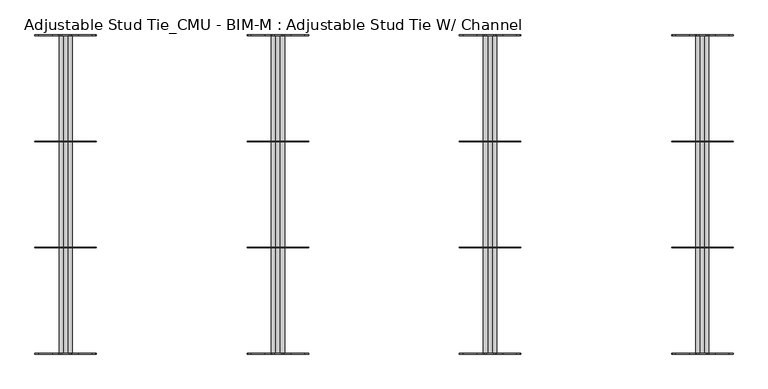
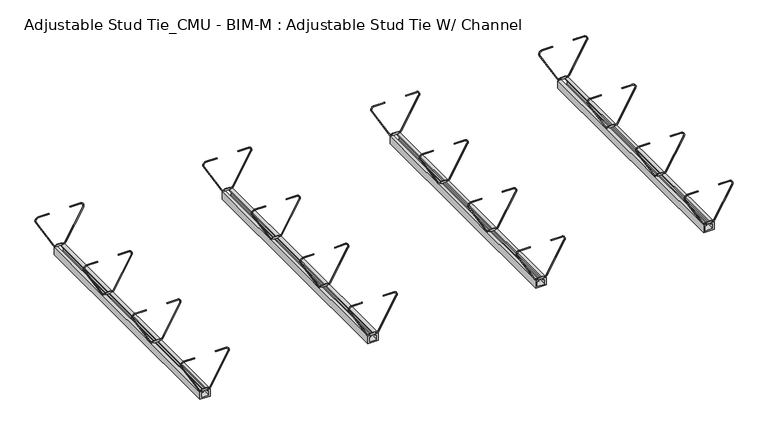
"""IFC4 building model written with IfcOpenShell, lengths in millimetres: proxy geometry, Adjustable Stud Tie_CMU - BIM-M : Adjustable Stud Tie W/ Channel."""

from ifc_helpers import new_model, si_unit, point, frame, frame_2d, origin, place, context, project, spatial, polyline, circle_curve, trimmed, segment, composite_curve, outline, extrude, source, transform, mapped, element, save


def adjustable_stud_tie_cmu_bim_m_adjustable_stud_tie_w_channel_f2c54c00(model_context):
    return source(origin(), model_context, "Body", "SweptSolid", [
        extrude(outline(composite_curve([segment(polyline([(-115.6954737, 4459.7080064), (-115.6954737, 4464.05), (-117.475, 4464.05), (-117.475, 4476.75), (-115.6954737, 4476.75), (-115.6954737, 4481.0919936)]), True, "CONTINUOUS"), segment(trimmed(circle_curve(frame_2d((-111.2621335, 4480.9975194)), 4.4343467), [point((-115.6954737, 4481.0919936))], [point((-113.4793069, 4484.8377763))], False, "CARTESIAN"), True, "CONTINUOUS"), segment(polyline([(-113.4793069, 4484.8377763), (-38.3089403, 4528.2374077)]), True, "CONTINUOUS"), segment(trimmed(circle_curve(frame_2d((-34.2420568, 4521.1933588)), 8.133767), [point((-38.3089403, 4528.2374077))], [point((-26.1197927, 4521.6257847))], False, "CARTESIAN"), True, "CONTINUOUS"), segment(polyline([(-26.1197927, 4521.6257847), (-26.1197927, 4495.8), (-27.7072927, 4495.8), (-27.7072927, 4521.5812638)]), True, "CONTINUOUS"), segment(trimmed(circle_curve(frame_2d((-34.2420568, 4521.1933588)), 6.546267), [point((-27.7072927, 4521.5812638))], [point((-37.5151903, 4526.8625923))], True, "CARTESIAN"), True, "CONTINUOUS"), segment(polyline([(-37.5151903, 4526.8625923), (-112.6855569, 4483.462961)]), True, "CONTINUOUS"), segment(trimmed(circle_curve(frame_2d((-111.2621335, 4480.9975194)), 2.8468467), [point((-112.6855569, 4483.462961))], [point((-114.1079737, 4481.0732143))], True, "CARTESIAN"), True, "CONTINUOUS"), segment(polyline([(-114.1079737, 4481.0732143), (-114.1079737, 4476.75), (-112.7125, 4476.75), (-112.7125, 4464.05), (-114.1079737, 4464.05), (-114.1079737, 4459.7267857)]), True, "CONTINUOUS"), segment(trimmed(circle_curve(frame_2d((-111.2621335, 4459.8024806)), 2.8468467), [point((-114.1079737, 4459.7267857))], [point((-112.6855569, 4457.337039))], True, "CARTESIAN"), True, "CONTINUOUS"), segment(polyline([(-112.6855569, 4457.337039), (-37.5151903, 4413.9374077)]), True, "CONTINUOUS"), segment(trimmed(circle_curve(frame_2d((-34.2420568, 4419.6066412)), 6.546267), [point((-37.5151903, 4413.9374077))], [point((-27.7072927, 4419.2187362))], True, "CARTESIAN"), True, "CONTINUOUS"), segment(polyline([(-27.7072927, 4419.2187362), (-27.7072927, 4445.0), (-26.1197927, 4445.0), (-26.1197927, 4419.1742153)]), True, "CONTINUOUS"), segment(trimmed(circle_curve(frame_2d((-34.2420568, 4419.6066412)), 8.133767), [point((-26.1197927, 4419.1742153))], [point((-38.3089403, 4412.5625923))], False, "CARTESIAN"), True, "CONTINUOUS"), segment(polyline([(-38.3089403, 4412.5625923), (-113.4793069, 4455.9622237)]), True, "CONTINUOUS"), segment(trimmed(circle_curve(frame_2d((-111.2621335, 4459.8024806)), 4.4343467), [point((-113.4793069, 4455.9622237))], [point((-115.6954737, 4459.7080064))], False, "CARTESIAN"), True, "CONTINUOUS")], self_intersect=False)), frame((0.0, 609.6, 0.0), z_axis=(0.0, 1.0, 0.0), x_axis=(0.0, 0.0, 1.0)), (0.0, 0.0, 1.0), 1.5875),
        extrude(outline(composite_curve([segment(polyline([(-115.6954737, 4459.7080064), (-115.6954737, 4464.05), (-117.475, 4464.05), (-117.475, 4476.75), (-115.6954737, 4476.75), (-115.6954737, 4481.0919936)]), True, "CONTINUOUS"), segment(trimmed(circle_curve(frame_2d((-111.2621335, 4480.9975194)), 4.4343467), [point((-115.6954737, 4481.0919936))], [point((-113.4793069, 4484.8377763))], False, "CARTESIAN"), True, "CONTINUOUS"), segment(polyline([(-113.4793069, 4484.8377763), (-38.3089403, 4528.2374077)]), True, "CONTINUOUS"), segment(trimmed(circle_curve(frame_2d((-34.2420568, 4521.1933588)), 8.133767), [point((-38.3089403, 4528.2374077))], [point((-26.1197927, 4521.6257847))], False, "CARTESIAN"), True, "CONTINUOUS"), segment(polyline([(-26.1197927, 4521.6257847), (-26.1197927, 4495.8), (-27.7072927, 4495.8), (-27.7072927, 4521.5812638)]), True, "CONTINUOUS"), segment(trimmed(circle_curve(frame_2d((-34.2420568, 4521.1933588)), 6.546267), [point((-27.7072927, 4521.5812638))], [point((-37.5151903, 4526.8625923))], True, "CARTESIAN"), True, "CONTINUOUS"), segment(polyline([(-37.5151903, 4526.8625923), (-112.6855569, 4483.462961)]), True, "CONTINUOUS"), segment(trimmed(circle_curve(frame_2d((-111.2621335, 4480.9975194)), 2.8468467), [point((-112.6855569, 4483.462961))], [point((-114.1079737, 4481.0732143))], True, "CARTESIAN"), True, "CONTINUOUS"), segment(polyline([(-114.1079737, 4481.0732143), (-114.1079737, 4476.75), (-112.7125, 4476.75), (-112.7125, 4464.05), (-114.1079737, 4464.05), (-114.1079737, 4459.7267857)]), True, "CONTINUOUS"), segment(trimmed(circle_curve(frame_2d((-111.2621335, 4459.8024806)), 2.8468467), [point((-114.1079737, 4459.7267857))], [point((-112.6855569, 4457.337039))], True, "CARTESIAN"), True, "CONTINUOUS"), segment(polyline([(-112.6855569, 4457.337039), (-37.5151903, 4413.9374077)]), True, "CONTINUOUS"), segment(trimmed(circle_curve(frame_2d((-34.2420568, 4419.6066412)), 6.546267), [point((-37.5151903, 4413.9374077))], [point((-27.7072927, 4419.2187362))], True, "CARTESIAN"), True, "CONTINUOUS"), segment(polyline([(-27.7072927, 4419.2187362), (-27.7072927, 4445.0), (-26.1197927, 4445.0), (-26.1197927, 4419.1742153)]), True, "CONTINUOUS"), segment(trimmed(circle_curve(frame_2d((-34.2420568, 4419.6066412)), 8.133767), [point((-26.1197927, 4419.1742153))], [point((-38.3089403, 4412.5625923))], False, "CARTESIAN"), True, "CONTINUOUS"), segment(polyline([(-38.3089403, 4412.5625923), (-113.4793069, 4455.9622237)]), True, "CONTINUOUS"), segment(trimmed(circle_curve(frame_2d((-111.2621335, 4459.8024806)), 4.4343467), [point((-113.4793069, 4455.9622237))], [point((-115.6954737, 4459.7080064))], False, "CARTESIAN"), True, "CONTINUOUS")], self_intersect=False)), frame((0.0, 406.4, 0.0), z_axis=(0.0, 1.0, 0.0), x_axis=(0.0, 0.0, 1.0)), (0.0, 0.0, 1.0), 1.5875),
        extrude(outline(composite_curve([segment(polyline([(-115.6954737, 4459.7080064), (-115.6954737, 4464.05), (-117.475, 4464.05), (-117.475, 4476.75), (-115.6954737, 4476.75), (-115.6954737, 4481.0919936)]), True, "CONTINUOUS"), segment(trimmed(circle_curve(frame_2d((-111.2621335, 4480.9975194)), 4.4343467), [point((-115.6954737, 4481.0919936))], [point((-113.4793069, 4484.8377763))], False, "CARTESIAN"), True, "CONTINUOUS"), segment(polyline([(-113.4793069, 4484.8377763), (-38.3089403, 4528.2374077)]), True, "CONTINUOUS"), segment(trimmed(circle_curve(frame_2d((-34.2420568, 4521.1933588)), 8.133767), [point((-38.3089403, 4528.2374077))], [point((-26.1197927, 4521.6257847))], False, "CARTESIAN"), True, "CONTINUOUS"), segment(polyline([(-26.1197927, 4521.6257847), (-26.1197927, 4495.8), (-27.7072927, 4495.8), (-27.7072927, 4521.5812638)]), True, "CONTINUOUS"), segment(trimmed(circle_curve(frame_2d((-34.2420568, 4521.1933588)), 6.546267), [point((-27.7072927, 4521.5812638))], [point((-37.5151903, 4526.8625923))], True, "CARTESIAN"), True, "CONTINUOUS"), segment(polyline([(-37.5151903, 4526.8625923), (-112.6855569, 4483.462961)]), True, "CONTINUOUS"), segment(trimmed(circle_curve(frame_2d((-111.2621335, 4480.9975194)), 2.8468467), [point((-112.6855569, 4483.462961))], [point((-114.1079737, 4481.0732143))], True, "CARTESIAN"), True, "CONTINUOUS"), segment(polyline([(-114.1079737, 4481.0732143), (-114.1079737, 4476.75), (-112.7125, 4476.75), (-112.7125, 4464.05), (-114.1079737, 4464.05), (-114.1079737, 4459.7267857)]), True, "CONTINUOUS"), segment(trimmed(circle_curve(frame_2d((-111.2621335, 4459.8024806)), 2.8468467), [point((-114.1079737, 4459.7267857))], [point((-112.6855569, 4457.337039))], True, "CARTESIAN"), True, "CONTINUOUS"), segment(polyline([(-112.6855569, 4457.337039), (-37.5151903, 4413.9374077)]), True, "CONTINUOUS"), segment(trimmed(circle_curve(frame_2d((-34.2420568, 4419.6066412)), 6.546267), [point((-37.5151903, 4413.9374077))], [point((-27.7072927, 4419.2187362))], True, "CARTESIAN"), True, "CONTINUOUS"), segment(polyline([(-27.7072927, 4419.2187362), (-27.7072927, 4445.0), (-26.1197927, 4445.0), (-26.1197927, 4419.1742153)]), True, "CONTINUOUS"), segment(trimmed(circle_curve(frame_2d((-34.2420568, 4419.6066412)), 8.133767), [point((-26.1197927, 4419.1742153))], [point((-38.3089403, 4412.5625923))], False, "CARTESIAN"), True, "CONTINUOUS"), segment(polyline([(-38.3089403, 4412.5625923), (-113.4793069, 4455.9622237)]), True, "CONTINUOUS"), segment(trimmed(circle_curve(frame_2d((-111.2621335, 4459.8024806)), 4.4343467), [point((-113.4793069, 4455.9622237))], [point((-115.6954737, 4459.7080064))], False, "CARTESIAN"), True, "CONTINUOUS")], self_intersect=False)), frame((0.0, 203.2, 0.0), z_axis=(0.0, 1.0, 0.0), x_axis=(0.0, 0.0, 1.0)), (0.0, 0.0, 1.0), 1.5875),
        extrude(outline(composite_curve([segment(polyline([(-115.6954737, 4459.7080064), (-115.6954737, 4464.05), (-117.475, 4464.05), (-117.475, 4476.75), (-115.6954737, 4476.75), (-115.6954737, 4481.0919936)]), True, "CONTINUOUS"), segment(trimmed(circle_curve(frame_2d((-111.2621335, 4480.9975194)), 4.4343467), [point((-115.6954737, 4481.0919936))], [point((-113.4793069, 4484.8377763))], False, "CARTESIAN"), True, "CONTINUOUS"), segment(polyline([(-113.4793069, 4484.8377763), (-38.3089403, 4528.2374077)]), True, "CONTINUOUS"), segment(trimmed(circle_curve(frame_2d((-34.2420568, 4521.1933588)), 8.133767), [point((-38.3089403, 4528.2374077))], [point((-26.1197927, 4521.6257847))], False, "CARTESIAN"), True, "CONTINUOUS"), segment(polyline([(-26.1197927, 4521.6257847), (-26.1197927, 4495.8), (-27.7072927, 4495.8), (-27.7072927, 4521.5812638)]), True, "CONTINUOUS"), segment(trimmed(circle_curve(frame_2d((-34.2420568, 4521.1933588)), 6.546267), [point((-27.7072927, 4521.5812638))], [point((-37.5151903, 4526.8625923))], True, "CARTESIAN"), True, "CONTINUOUS"), segment(polyline([(-37.5151903, 4526.8625923), (-112.6855569, 4483.462961)]), True, "CONTINUOUS"), segment(trimmed(circle_curve(frame_2d((-111.2621335, 4480.9975194)), 2.8468467), [point((-112.6855569, 4483.462961))], [point((-114.1079737, 4481.0732143))], True, "CARTESIAN"), True, "CONTINUOUS"), segment(polyline([(-114.1079737, 4481.0732143), (-114.1079737, 4476.75), (-112.7125, 4476.75), (-112.7125, 4464.05), (-114.1079737, 4464.05), (-114.1079737, 4459.7267857)]), True, "CONTINUOUS"), segment(trimmed(circle_curve(frame_2d((-111.2621335, 4459.8024806)), 2.8468467), [point((-114.1079737, 4459.7267857))], [point((-112.6855569, 4457.337039))], True, "CARTESIAN"), True, "CONTINUOUS"), segment(polyline([(-112.6855569, 4457.337039), (-37.5151903, 4413.9374077)]), True, "CONTINUOUS"), segment(trimmed(circle_curve(frame_2d((-34.2420568, 4419.6066412)), 6.546267), [point((-37.5151903, 4413.9374077))], [point((-27.7072927, 4419.2187362))], True, "CARTESIAN"), True, "CONTINUOUS"), segment(polyline([(-27.7072927, 4419.2187362), (-27.7072927, 4445.0), (-26.1197927, 4445.0), (-26.1197927, 4419.1742153)]), True, "CONTINUOUS"), segment(trimmed(circle_curve(frame_2d((-34.2420568, 4419.6066412)), 8.133767), [point((-26.1197927, 4419.1742153))], [point((-38.3089403, 4412.5625923))], False, "CARTESIAN"), True, "CONTINUOUS"), segment(polyline([(-38.3089403, 4412.5625923), (-113.4793069, 4455.9622237)]), True, "CONTINUOUS"), segment(trimmed(circle_curve(frame_2d((-111.2621335, 4459.8024806)), 4.4343467), [point((-113.4793069, 4455.9622237))], [point((-115.6954737, 4459.7080064))], False, "CARTESIAN"), True, "CONTINUOUS")], self_intersect=False)), frame((0.0, 0.0, 0.0), z_axis=(0.0, 1.0, 0.0), x_axis=(0.0, 0.0, 1.0)), (0.0, 0.0, 1.0), 1.5875),
        extrude(outline(polyline([(-136.525, 4483.1), (-117.475, 4483.1), (-117.475, 4475.1669306), (-120.65, 4475.1669306), (-120.65, 4479.925), (-133.35, 4479.925), (-133.35, 4460.875), (-120.65, 4460.875), (-120.65, 4465.6330694), (-117.475, 4465.6330694), (-117.475, 4457.7), (-136.525, 4457.7), (-136.525, 4483.1)])), frame((0.0, 0.0, 0.0), z_axis=(0.0, 1.0, 0.0), x_axis=(0.0, 0.0, 1.0)), (0.0, 0.0, 1.0), 610.39375),
        extrude(outline(composite_curve([segment(polyline([(-115.6954737, 4053.3080064), (-115.6954737, 4057.65), (-117.475, 4057.65), (-117.475, 4070.35), (-115.6954737, 4070.35), (-115.6954737, 4074.6919936)]), True, "CONTINUOUS"), segment(trimmed(circle_curve(frame_2d((-111.2621335, 4074.5975194)), 4.4343467), [point((-115.6954737, 4074.6919936))], [point((-113.4793069, 4078.4377763))], False, "CARTESIAN"), True, "CONTINUOUS"), segment(polyline([(-113.4793069, 4078.4377763), (-38.3089403, 4121.8374077)]), True, "CONTINUOUS"), segment(trimmed(circle_curve(frame_2d((-34.2420568, 4114.7933588)), 8.133767), [point((-38.3089403, 4121.8374077))], [point((-26.1197927, 4115.2257847))], False, "CARTESIAN"), True, "CONTINUOUS"), segment(polyline([(-26.1197927, 4115.2257847), (-26.1197927, 4089.4), (-27.7072927, 4089.4), (-27.7072927, 4115.1812638)]), True, "CONTINUOUS"), segment(trimmed(circle_curve(frame_2d((-34.2420568, 4114.7933588)), 6.546267), [point((-27.7072927, 4115.1812638))], [point((-37.5151903, 4120.4625923))], True, "CARTESIAN"), True, "CONTINUOUS"), segment(polyline([(-37.5151903, 4120.4625923), (-112.6855569, 4077.062961)]), True, "CONTINUOUS"), segment(trimmed(circle_curve(frame_2d((-111.2621335, 4074.5975194)), 2.8468467), [point((-112.6855569, 4077.062961))], [point((-114.1079737, 4074.6732143))], True, "CARTESIAN"), True, "CONTINUOUS"), segment(polyline([(-114.1079737, 4074.6732143), (-114.1079737, 4070.35), (-112.7125, 4070.35), (-112.7125, 4057.65), (-114.1079737, 4057.65), (-114.1079737, 4053.3267857)]), True, "CONTINUOUS"), segment(trimmed(circle_curve(frame_2d((-111.2621335, 4053.4024806)), 2.8468467), [point((-114.1079737, 4053.3267857))], [point((-112.6855569, 4050.937039))], True, "CARTESIAN"), True, "CONTINUOUS"), segment(polyline([(-112.6855569, 4050.937039), (-37.5151903, 4007.5374077)]), True, "CONTINUOUS"), segment(trimmed(circle_curve(frame_2d((-34.2420568, 4013.2066412)), 6.546267), [point((-37.5151903, 4007.5374077))], [point((-27.7072927, 4012.8187362))], True, "CARTESIAN"), True, "CONTINUOUS"), segment(polyline([(-27.7072927, 4012.8187362), (-27.7072927, 4038.6), (-26.1197927, 4038.6), (-26.1197927, 4012.7742153)]), True, "CONTINUOUS"), segment(trimmed(circle_curve(frame_2d((-34.2420568, 4013.2066412)), 8.133767), [point((-26.1197927, 4012.7742153))], [point((-38.3089403, 4006.1625923))], False, "CARTESIAN"), True, "CONTINUOUS"), segment(polyline([(-38.3089403, 4006.1625923), (-113.4793069, 4049.5622237)]), True, "CONTINUOUS"), segment(trimmed(circle_curve(frame_2d((-111.2621335, 4053.4024806)), 4.4343467), [point((-113.4793069, 4049.5622237))], [point((-115.6954737, 4053.3080064))], False, "CARTESIAN"), True, "CONTINUOUS")], self_intersect=False)), frame((0.0, 609.6, 0.0), z_axis=(0.0, 1.0, 0.0), x_axis=(0.0, 0.0, 1.0)), (0.0, 0.0, 1.0), 1.5875),
        extrude(outline(composite_curve([segment(polyline([(-115.6954737, 4053.3080064), (-115.6954737, 4057.65), (-117.475, 4057.65), (-117.475, 4070.35), (-115.6954737, 4070.35), (-115.6954737, 4074.6919936)]), True, "CONTINUOUS"), segment(trimmed(circle_curve(frame_2d((-111.2621335, 4074.5975194)), 4.4343467), [point((-115.6954737, 4074.6919936))], [point((-113.4793069, 4078.4377763))], False, "CARTESIAN"), True, "CONTINUOUS"), segment(polyline([(-113.4793069, 4078.4377763), (-38.3089403, 4121.8374077)]), True, "CONTINUOUS"), segment(trimmed(circle_curve(frame_2d((-34.2420568, 4114.7933588)), 8.133767), [point((-38.3089403, 4121.8374077))], [point((-26.1197927, 4115.2257847))], False, "CARTESIAN"), True, "CONTINUOUS"), segment(polyline([(-26.1197927, 4115.2257847), (-26.1197927, 4089.4), (-27.7072927, 4089.4), (-27.7072927, 4115.1812638)]), True, "CONTINUOUS"), segment(trimmed(circle_curve(frame_2d((-34.2420568, 4114.7933588)), 6.546267), [point((-27.7072927, 4115.1812638))], [point((-37.5151903, 4120.4625923))], True, "CARTESIAN"), True, "CONTINUOUS"), segment(polyline([(-37.5151903, 4120.4625923), (-112.6855569, 4077.062961)]), True, "CONTINUOUS"), segment(trimmed(circle_curve(frame_2d((-111.2621335, 4074.5975194)), 2.8468467), [point((-112.6855569, 4077.062961))], [point((-114.1079737, 4074.6732143))], True, "CARTESIAN"), True, "CONTINUOUS"), segment(polyline([(-114.1079737, 4074.6732143), (-114.1079737, 4070.35), (-112.7125, 4070.35), (-112.7125, 4057.65), (-114.1079737, 4057.65), (-114.1079737, 4053.3267857)]), True, "CONTINUOUS"), segment(trimmed(circle_curve(frame_2d((-111.2621335, 4053.4024806)), 2.8468467), [point((-114.1079737, 4053.3267857))], [point((-112.6855569, 4050.937039))], True, "CARTESIAN"), True, "CONTINUOUS"), segment(polyline([(-112.6855569, 4050.937039), (-37.5151903, 4007.5374077)]), True, "CONTINUOUS"), segment(trimmed(circle_curve(frame_2d((-34.2420568, 4013.2066412)), 6.546267), [point((-37.5151903, 4007.5374077))], [point((-27.7072927, 4012.8187362))], True, "CARTESIAN"), True, "CONTINUOUS"), segment(polyline([(-27.7072927, 4012.8187362), (-27.7072927, 4038.6), (-26.1197927, 4038.6), (-26.1197927, 4012.7742153)]), True, "CONTINUOUS"), segment(trimmed(circle_curve(frame_2d((-34.2420568, 4013.2066412)), 8.133767), [point((-26.1197927, 4012.7742153))], [point((-38.3089403, 4006.1625923))], False, "CARTESIAN"), True, "CONTINUOUS"), segment(polyline([(-38.3089403, 4006.1625923), (-113.4793069, 4049.5622237)]), True, "CONTINUOUS"), segment(trimmed(circle_curve(frame_2d((-111.2621335, 4053.4024806)), 4.4343467), [point((-113.4793069, 4049.5622237))], [point((-115.6954737, 4053.3080064))], False, "CARTESIAN"), True, "CONTINUOUS")], self_intersect=False)), frame((0.0, 406.4, 0.0), z_axis=(0.0, 1.0, 0.0), x_axis=(0.0, 0.0, 1.0)), (0.0, 0.0, 1.0), 1.5875),
        extrude(outline(composite_curve([segment(polyline([(-115.6954737, 4053.3080064), (-115.6954737, 4057.65), (-117.475, 4057.65), (-117.475, 4070.35), (-115.6954737, 4070.35), (-115.6954737, 4074.6919936)]), True, "CONTINUOUS"), segment(trimmed(circle_curve(frame_2d((-111.2621335, 4074.5975194)), 4.4343467), [point((-115.6954737, 4074.6919936))], [point((-113.4793069, 4078.4377763))], False, "CARTESIAN"), True, "CONTINUOUS"), segment(polyline([(-113.4793069, 4078.4377763), (-38.3089403, 4121.8374077)]), True, "CONTINUOUS"), segment(trimmed(circle_curve(frame_2d((-34.2420568, 4114.7933588)), 8.133767), [point((-38.3089403, 4121.8374077))], [point((-26.1197927, 4115.2257847))], False, "CARTESIAN"), True, "CONTINUOUS"), segment(polyline([(-26.1197927, 4115.2257847), (-26.1197927, 4089.4), (-27.7072927, 4089.4), (-27.7072927, 4115.1812638)]), True, "CONTINUOUS"), segment(trimmed(circle_curve(frame_2d((-34.2420568, 4114.7933588)), 6.546267), [point((-27.7072927, 4115.1812638))], [point((-37.5151903, 4120.4625923))], True, "CARTESIAN"), True, "CONTINUOUS"), segment(polyline([(-37.5151903, 4120.4625923), (-112.6855569, 4077.062961)]), True, "CONTINUOUS"), segment(trimmed(circle_curve(frame_2d((-111.2621335, 4074.5975194)), 2.8468467), [point((-112.6855569, 4077.062961))], [point((-114.1079737, 4074.6732143))], True, "CARTESIAN"), True, "CONTINUOUS"), segment(polyline([(-114.1079737, 4074.6732143), (-114.1079737, 4070.35), (-112.7125, 4070.35), (-112.7125, 4057.65), (-114.1079737, 4057.65), (-114.1079737, 4053.3267857)]), True, "CONTINUOUS"), segment(trimmed(circle_curve(frame_2d((-111.2621335, 4053.4024806)), 2.8468467), [point((-114.1079737, 4053.3267857))], [point((-112.6855569, 4050.937039))], True, "CARTESIAN"), True, "CONTINUOUS"), segment(polyline([(-112.6855569, 4050.937039), (-37.5151903, 4007.5374077)]), True, "CONTINUOUS"), segment(trimmed(circle_curve(frame_2d((-34.2420568, 4013.2066412)), 6.546267), [point((-37.5151903, 4007.5374077))], [point((-27.7072927, 4012.8187362))], True, "CARTESIAN"), True, "CONTINUOUS"), segment(polyline([(-27.7072927, 4012.8187362), (-27.7072927, 4038.6), (-26.1197927, 4038.6), (-26.1197927, 4012.7742153)]), True, "CONTINUOUS"), segment(trimmed(circle_curve(frame_2d((-34.2420568, 4013.2066412)), 8.133767), [point((-26.1197927, 4012.7742153))], [point((-38.3089403, 4006.1625923))], False, "CARTESIAN"), True, "CONTINUOUS"), segment(polyline([(-38.3089403, 4006.1625923), (-113.4793069, 4049.5622237)]), True, "CONTINUOUS"), segment(trimmed(circle_curve(frame_2d((-111.2621335, 4053.4024806)), 4.4343467), [point((-113.4793069, 4049.5622237))], [point((-115.6954737, 4053.3080064))], False, "CARTESIAN"), True, "CONTINUOUS")], self_intersect=False)), frame((0.0, 203.2, 0.0), z_axis=(0.0, 1.0, 0.0), x_axis=(0.0, 0.0, 1.0)), (0.0, 0.0, 1.0), 1.5875),
        extrude(outline(composite_curve([segment(polyline([(-115.6954737, 4053.3080064), (-115.6954737, 4057.65), (-117.475, 4057.65), (-117.475, 4070.35), (-115.6954737, 4070.35), (-115.6954737, 4074.6919936)]), True, "CONTINUOUS"), segment(trimmed(circle_curve(frame_2d((-111.2621335, 4074.5975194)), 4.4343467), [point((-115.6954737, 4074.6919936))], [point((-113.4793069, 4078.4377763))], False, "CARTESIAN"), True, "CONTINUOUS"), segment(polyline([(-113.4793069, 4078.4377763), (-38.3089403, 4121.8374077)]), True, "CONTINUOUS"), segment(trimmed(circle_curve(frame_2d((-34.2420568, 4114.7933588)), 8.133767), [point((-38.3089403, 4121.8374077))], [point((-26.1197927, 4115.2257847))], False, "CARTESIAN"), True, "CONTINUOUS"), segment(polyline([(-26.1197927, 4115.2257847), (-26.1197927, 4089.4), (-27.7072927, 4089.4), (-27.7072927, 4115.1812638)]), True, "CONTINUOUS"), segment(trimmed(circle_curve(frame_2d((-34.2420568, 4114.7933588)), 6.546267), [point((-27.7072927, 4115.1812638))], [point((-37.5151903, 4120.4625923))], True, "CARTESIAN"), True, "CONTINUOUS"), segment(polyline([(-37.5151903, 4120.4625923), (-112.6855569, 4077.062961)]), True, "CONTINUOUS"), segment(trimmed(circle_curve(frame_2d((-111.2621335, 4074.5975194)), 2.8468467), [point((-112.6855569, 4077.062961))], [point((-114.1079737, 4074.6732143))], True, "CARTESIAN"), True, "CONTINUOUS"), segment(polyline([(-114.1079737, 4074.6732143), (-114.1079737, 4070.35), (-112.7125, 4070.35), (-112.7125, 4057.65), (-114.1079737, 4057.65), (-114.1079737, 4053.3267857)]), True, "CONTINUOUS"), segment(trimmed(circle_curve(frame_2d((-111.2621335, 4053.4024806)), 2.8468467), [point((-114.1079737, 4053.3267857))], [point((-112.6855569, 4050.937039))], True, "CARTESIAN"), True, "CONTINUOUS"), segment(polyline([(-112.6855569, 4050.937039), (-37.5151903, 4007.5374077)]), True, "CONTINUOUS"), segment(trimmed(circle_curve(frame_2d((-34.2420568, 4013.2066412)), 6.546267), [point((-37.5151903, 4007.5374077))], [point((-27.7072927, 4012.8187362))], True, "CARTESIAN"), True, "CONTINUOUS"), segment(polyline([(-27.7072927, 4012.8187362), (-27.7072927, 4038.6), (-26.1197927, 4038.6), (-26.1197927, 4012.7742153)]), True, "CONTINUOUS"), segment(trimmed(circle_curve(frame_2d((-34.2420568, 4013.2066412)), 8.133767), [point((-26.1197927, 4012.7742153))], [point((-38.3089403, 4006.1625923))], False, "CARTESIAN"), True, "CONTINUOUS"), segment(polyline([(-38.3089403, 4006.1625923), (-113.4793069, 4049.5622237)]), True, "CONTINUOUS"), segment(trimmed(circle_curve(frame_2d((-111.2621335, 4053.4024806)), 4.4343467), [point((-113.4793069, 4049.5622237))], [point((-115.6954737, 4053.3080064))], False, "CARTESIAN"), True, "CONTINUOUS")], self_intersect=False)), frame((0.0, 0.0, 0.0), z_axis=(0.0, 1.0, 0.0), x_axis=(0.0, 0.0, 1.0)), (0.0, 0.0, 1.0), 1.5875),
        extrude(outline(polyline([(-136.525, 4076.7), (-117.475, 4076.7), (-117.475, 4068.7669306), (-120.65, 4068.7669306), (-120.65, 4073.525), (-133.35, 4073.525), (-133.35, 4054.475), (-120.65, 4054.475), (-120.65, 4059.2330694), (-117.475, 4059.2330694), (-117.475, 4051.3), (-136.525, 4051.3), (-136.525, 4076.7)])), frame((0.0, 0.0, 0.0), z_axis=(0.0, 1.0, 0.0), x_axis=(0.0, 0.0, 1.0)), (0.0, 0.0, 1.0), 610.39375),
        extrude(outline(composite_curve([segment(polyline([(-115.6954737, 3646.9080064), (-115.6954737, 3651.25), (-117.475, 3651.25), (-117.475, 3663.95), (-115.6954737, 3663.95), (-115.6954737, 3668.2919936)]), True, "CONTINUOUS"), segment(trimmed(circle_curve(frame_2d((-111.2621335, 3668.1975194)), 4.4343467), [point((-115.6954737, 3668.2919936))], [point((-113.4793069, 3672.0377763))], False, "CARTESIAN"), True, "CONTINUOUS"), segment(polyline([(-113.4793069, 3672.0377763), (-38.3089403, 3715.4374077)]), True, "CONTINUOUS"), segment(trimmed(circle_curve(frame_2d((-34.2420568, 3708.3933588)), 8.133767), [point((-38.3089403, 3715.4374077))], [point((-26.1197927, 3708.8257847))], False, "CARTESIAN"), True, "CONTINUOUS"), segment(polyline([(-26.1197927, 3708.8257847), (-26.1197927, 3683.0), (-27.7072927, 3683.0), (-27.7072927, 3708.7812638)]), True, "CONTINUOUS"), segment(trimmed(circle_curve(frame_2d((-34.2420568, 3708.3933588)), 6.546267), [point((-27.7072927, 3708.7812638))], [point((-37.5151903, 3714.0625923))], True, "CARTESIAN"), True, "CONTINUOUS"), segment(polyline([(-37.5151903, 3714.0625923), (-112.6855569, 3670.662961)]), True, "CONTINUOUS"), segment(trimmed(circle_curve(frame_2d((-111.2621335, 3668.1975194)), 2.8468467), [point((-112.6855569, 3670.662961))], [point((-114.1079737, 3668.2732143))], True, "CARTESIAN"), True, "CONTINUOUS"), segment(polyline([(-114.1079737, 3668.2732143), (-114.1079737, 3663.95), (-112.7125, 3663.95), (-112.7125, 3651.25), (-114.1079737, 3651.25), (-114.1079737, 3646.9267857)]), True, "CONTINUOUS"), segment(trimmed(circle_curve(frame_2d((-111.2621335, 3647.0024806)), 2.8468467), [point((-114.1079737, 3646.9267857))], [point((-112.6855569, 3644.537039))], True, "CARTESIAN"), True, "CONTINUOUS"), segment(polyline([(-112.6855569, 3644.537039), (-37.5151903, 3601.1374077)]), True, "CONTINUOUS"), segment(trimmed(circle_curve(frame_2d((-34.2420568, 3606.8066412)), 6.546267), [point((-37.5151903, 3601.1374077))], [point((-27.7072927, 3606.4187362))], True, "CARTESIAN"), True, "CONTINUOUS"), segment(polyline([(-27.7072927, 3606.4187362), (-27.7072927, 3632.2), (-26.1197927, 3632.2), (-26.1197927, 3606.3742153)]), True, "CONTINUOUS"), segment(trimmed(circle_curve(frame_2d((-34.2420568, 3606.8066412)), 8.133767), [point((-26.1197927, 3606.3742153))], [point((-38.3089403, 3599.7625923))], False, "CARTESIAN"), True, "CONTINUOUS"), segment(polyline([(-38.3089403, 3599.7625923), (-113.4793069, 3643.1622237)]), True, "CONTINUOUS"), segment(trimmed(circle_curve(frame_2d((-111.2621335, 3647.0024806)), 4.4343467), [point((-113.4793069, 3643.1622237))], [point((-115.6954737, 3646.9080064))], False, "CARTESIAN"), True, "CONTINUOUS")], self_intersect=False)), frame((0.0, 609.6, 0.0), z_axis=(0.0, 1.0, 0.0), x_axis=(0.0, 0.0, 1.0)), (0.0, 0.0, 1.0), 1.5875),
        extrude(outline(composite_curve([segment(polyline([(-115.6954737, 3646.9080064), (-115.6954737, 3651.25), (-117.475, 3651.25), (-117.475, 3663.95), (-115.6954737, 3663.95), (-115.6954737, 3668.2919936)]), True, "CONTINUOUS"), segment(trimmed(circle_curve(frame_2d((-111.2621335, 3668.1975194)), 4.4343467), [point((-115.6954737, 3668.2919936))], [point((-113.4793069, 3672.0377763))], False, "CARTESIAN"), True, "CONTINUOUS"), segment(polyline([(-113.4793069, 3672.0377763), (-38.3089403, 3715.4374077)]), True, "CONTINUOUS"), segment(trimmed(circle_curve(frame_2d((-34.2420568, 3708.3933588)), 8.133767), [point((-38.3089403, 3715.4374077))], [point((-26.1197927, 3708.8257847))], False, "CARTESIAN"), True, "CONTINUOUS"), segment(polyline([(-26.1197927, 3708.8257847), (-26.1197927, 3683.0), (-27.7072927, 3683.0), (-27.7072927, 3708.7812638)]), True, "CONTINUOUS"), segment(trimmed(circle_curve(frame_2d((-34.2420568, 3708.3933588)), 6.546267), [point((-27.7072927, 3708.7812638))], [point((-37.5151903, 3714.0625923))], True, "CARTESIAN"), True, "CONTINUOUS"), segment(polyline([(-37.5151903, 3714.0625923), (-112.6855569, 3670.662961)]), True, "CONTINUOUS"), segment(trimmed(circle_curve(frame_2d((-111.2621335, 3668.1975194)), 2.8468467), [point((-112.6855569, 3670.662961))], [point((-114.1079737, 3668.2732143))], True, "CARTESIAN"), True, "CONTINUOUS"), segment(polyline([(-114.1079737, 3668.2732143), (-114.1079737, 3663.95), (-112.7125, 3663.95), (-112.7125, 3651.25), (-114.1079737, 3651.25), (-114.1079737, 3646.9267857)]), True, "CONTINUOUS"), segment(trimmed(circle_curve(frame_2d((-111.2621335, 3647.0024806)), 2.8468467), [point((-114.1079737, 3646.9267857))], [point((-112.6855569, 3644.537039))], True, "CARTESIAN"), True, "CONTINUOUS"), segment(polyline([(-112.6855569, 3644.537039), (-37.5151903, 3601.1374077)]), True, "CONTINUOUS"), segment(trimmed(circle_curve(frame_2d((-34.2420568, 3606.8066412)), 6.546267), [point((-37.5151903, 3601.1374077))], [point((-27.7072927, 3606.4187362))], True, "CARTESIAN"), True, "CONTINUOUS"), segment(polyline([(-27.7072927, 3606.4187362), (-27.7072927, 3632.2), (-26.1197927, 3632.2), (-26.1197927, 3606.3742153)]), True, "CONTINUOUS"), segment(trimmed(circle_curve(frame_2d((-34.2420568, 3606.8066412)), 8.133767), [point((-26.1197927, 3606.3742153))], [point((-38.3089403, 3599.7625923))], False, "CARTESIAN"), True, "CONTINUOUS"), segment(polyline([(-38.3089403, 3599.7625923), (-113.4793069, 3643.1622237)]), True, "CONTINUOUS"), segment(trimmed(circle_curve(frame_2d((-111.2621335, 3647.0024806)), 4.4343467), [point((-113.4793069, 3643.1622237))], [point((-115.6954737, 3646.9080064))], False, "CARTESIAN"), True, "CONTINUOUS")], self_intersect=False)), frame((0.0, 406.4, 0.0), z_axis=(0.0, 1.0, 0.0), x_axis=(0.0, 0.0, 1.0)), (0.0, 0.0, 1.0), 1.5875),
        extrude(outline(composite_curve([segment(polyline([(-115.6954737, 3646.9080064), (-115.6954737, 3651.25), (-117.475, 3651.25), (-117.475, 3663.95), (-115.6954737, 3663.95), (-115.6954737, 3668.2919936)]), True, "CONTINUOUS"), segment(trimmed(circle_curve(frame_2d((-111.2621335, 3668.1975194)), 4.4343467), [point((-115.6954737, 3668.2919936))], [point((-113.4793069, 3672.0377763))], False, "CARTESIAN"), True, "CONTINUOUS"), segment(polyline([(-113.4793069, 3672.0377763), (-38.3089403, 3715.4374077)]), True, "CONTINUOUS"), segment(trimmed(circle_curve(frame_2d((-34.2420568, 3708.3933588)), 8.133767), [point((-38.3089403, 3715.4374077))], [point((-26.1197927, 3708.8257847))], False, "CARTESIAN"), True, "CONTINUOUS"), segment(polyline([(-26.1197927, 3708.8257847), (-26.1197927, 3683.0), (-27.7072927, 3683.0), (-27.7072927, 3708.7812638)]), True, "CONTINUOUS"), segment(trimmed(circle_curve(frame_2d((-34.2420568, 3708.3933588)), 6.546267), [point((-27.7072927, 3708.7812638))], [point((-37.5151903, 3714.0625923))], True, "CARTESIAN"), True, "CONTINUOUS"), segment(polyline([(-37.5151903, 3714.0625923), (-112.6855569, 3670.662961)]), True, "CONTINUOUS"), segment(trimmed(circle_curve(frame_2d((-111.2621335, 3668.1975194)), 2.8468467), [point((-112.6855569, 3670.662961))], [point((-114.1079737, 3668.2732143))], True, "CARTESIAN"), True, "CONTINUOUS"), segment(polyline([(-114.1079737, 3668.2732143), (-114.1079737, 3663.95), (-112.7125, 3663.95), (-112.7125, 3651.25), (-114.1079737, 3651.25), (-114.1079737, 3646.9267857)]), True, "CONTINUOUS"), segment(trimmed(circle_curve(frame_2d((-111.2621335, 3647.0024806)), 2.8468467), [point((-114.1079737, 3646.9267857))], [point((-112.6855569, 3644.537039))], True, "CARTESIAN"), True, "CONTINUOUS"), segment(polyline([(-112.6855569, 3644.537039), (-37.5151903, 3601.1374077)]), True, "CONTINUOUS"), segment(trimmed(circle_curve(frame_2d((-34.2420568, 3606.8066412)), 6.546267), [point((-37.5151903, 3601.1374077))], [point((-27.7072927, 3606.4187362))], True, "CARTESIAN"), True, "CONTINUOUS"), segment(polyline([(-27.7072927, 3606.4187362), (-27.7072927, 3632.2), (-26.1197927, 3632.2), (-26.1197927, 3606.3742153)]), True, "CONTINUOUS"), segment(trimmed(circle_curve(frame_2d((-34.2420568, 3606.8066412)), 8.133767), [point((-26.1197927, 3606.3742153))], [point((-38.3089403, 3599.7625923))], False, "CARTESIAN"), True, "CONTINUOUS"), segment(polyline([(-38.3089403, 3599.7625923), (-113.4793069, 3643.1622237)]), True, "CONTINUOUS"), segment(trimmed(circle_curve(frame_2d((-111.2621335, 3647.0024806)), 4.4343467), [point((-113.4793069, 3643.1622237))], [point((-115.6954737, 3646.9080064))], False, "CARTESIAN"), True, "CONTINUOUS")], self_intersect=False)), frame((0.0, 203.2, 0.0), z_axis=(0.0, 1.0, 0.0), x_axis=(0.0, 0.0, 1.0)), (0.0, 0.0, 1.0), 1.5875),
        extrude(outline(composite_curve([segment(polyline([(-115.6954737, 3646.9080064), (-115.6954737, 3651.25), (-117.475, 3651.25), (-117.475, 3663.95), (-115.6954737, 3663.95), (-115.6954737, 3668.2919936)]), True, "CONTINUOUS"), segment(trimmed(circle_curve(frame_2d((-111.2621335, 3668.1975194)), 4.4343467), [point((-115.6954737, 3668.2919936))], [point((-113.4793069, 3672.0377763))], False, "CARTESIAN"), True, "CONTINUOUS"), segment(polyline([(-113.4793069, 3672.0377763), (-38.3089403, 3715.4374077)]), True, "CONTINUOUS"), segment(trimmed(circle_curve(frame_2d((-34.2420568, 3708.3933588)), 8.133767), [point((-38.3089403, 3715.4374077))], [point((-26.1197927, 3708.8257847))], False, "CARTESIAN"), True, "CONTINUOUS"), segment(polyline([(-26.1197927, 3708.8257847), (-26.1197927, 3683.0), (-27.7072927, 3683.0), (-27.7072927, 3708.7812638)]), True, "CONTINUOUS"), segment(trimmed(circle_curve(frame_2d((-34.2420568, 3708.3933588)), 6.546267), [point((-27.7072927, 3708.7812638))], [point((-37.5151903, 3714.0625923))], True, "CARTESIAN"), True, "CONTINUOUS"), segment(polyline([(-37.5151903, 3714.0625923), (-112.6855569, 3670.662961)]), True, "CONTINUOUS"), segment(trimmed(circle_curve(frame_2d((-111.2621335, 3668.1975194)), 2.8468467), [point((-112.6855569, 3670.662961))], [point((-114.1079737, 3668.2732143))], True, "CARTESIAN"), True, "CONTINUOUS"), segment(polyline([(-114.1079737, 3668.2732143), (-114.1079737, 3663.95), (-112.7125, 3663.95), (-112.7125, 3651.25), (-114.1079737, 3651.25), (-114.1079737, 3646.9267857)]), True, "CONTINUOUS"), segment(trimmed(circle_curve(frame_2d((-111.2621335, 3647.0024806)), 2.8468467), [point((-114.1079737, 3646.9267857))], [point((-112.6855569, 3644.537039))], True, "CARTESIAN"), True, "CONTINUOUS"), segment(polyline([(-112.6855569, 3644.537039), (-37.5151903, 3601.1374077)]), True, "CONTINUOUS"), segment(trimmed(circle_curve(frame_2d((-34.2420568, 3606.8066412)), 6.546267), [point((-37.5151903, 3601.1374077))], [point((-27.7072927, 3606.4187362))], True, "CARTESIAN"), True, "CONTINUOUS"), segment(polyline([(-27.7072927, 3606.4187362), (-27.7072927, 3632.2), (-26.1197927, 3632.2), (-26.1197927, 3606.3742153)]), True, "CONTINUOUS"), segment(trimmed(circle_curve(frame_2d((-34.2420568, 3606.8066412)), 8.133767), [point((-26.1197927, 3606.3742153))], [point((-38.3089403, 3599.7625923))], False, "CARTESIAN"), True, "CONTINUOUS"), segment(polyline([(-38.3089403, 3599.7625923), (-113.4793069, 3643.1622237)]), True, "CONTINUOUS"), segment(trimmed(circle_curve(frame_2d((-111.2621335, 3647.0024806)), 4.4343467), [point((-113.4793069, 3643.1622237))], [point((-115.6954737, 3646.9080064))], False, "CARTESIAN"), True, "CONTINUOUS")], self_intersect=False)), frame((0.0, 0.0, 0.0), z_axis=(0.0, 1.0, 0.0), x_axis=(0.0, 0.0, 1.0)), (0.0, 0.0, 1.0), 1.5875),
        extrude(outline(polyline([(-136.525, 3670.3), (-117.475, 3670.3), (-117.475, 3662.3669306), (-120.65, 3662.3669306), (-120.65, 3667.125), (-133.35, 3667.125), (-133.35, 3648.075), (-120.65, 3648.075), (-120.65, 3652.8330694), (-117.475, 3652.8330694), (-117.475, 3644.9), (-136.525, 3644.9), (-136.525, 3670.3)])), frame((0.0, 0.0, 0.0), z_axis=(0.0, 1.0, 0.0), x_axis=(0.0, 0.0, 1.0)), (0.0, 0.0, 1.0), 610.39375),
        extrude(outline(composite_curve([segment(polyline([(-115.6954737, 3240.5080064), (-115.6954737, 3244.85), (-117.475, 3244.85), (-117.475, 3257.55), (-115.6954737, 3257.55), (-115.6954737, 3261.8919936)]), True, "CONTINUOUS"), segment(trimmed(circle_curve(frame_2d((-111.2621335, 3261.7975194)), 4.4343467), [point((-115.6954737, 3261.8919936))], [point((-113.4793069, 3265.6377763))], False, "CARTESIAN"), True, "CONTINUOUS"), segment(polyline([(-113.4793069, 3265.6377763), (-38.3089403, 3309.0374077)]), True, "CONTINUOUS"), segment(trimmed(circle_curve(frame_2d((-34.2420568, 3301.9933588)), 8.133767), [point((-38.3089403, 3309.0374077))], [point((-26.1197927, 3302.4257847))], False, "CARTESIAN"), True, "CONTINUOUS"), segment(polyline([(-26.1197927, 3302.4257847), (-26.1197927, 3276.6), (-27.7072927, 3276.6), (-27.7072927, 3302.3812638)]), True, "CONTINUOUS"), segment(trimmed(circle_curve(frame_2d((-34.2420568, 3301.9933588)), 6.546267), [point((-27.7072927, 3302.3812638))], [point((-37.5151903, 3307.6625923))], True, "CARTESIAN"), True, "CONTINUOUS"), segment(polyline([(-37.5151903, 3307.6625923), (-112.6855569, 3264.262961)]), True, "CONTINUOUS"), segment(trimmed(circle_curve(frame_2d((-111.2621335, 3261.7975194)), 2.8468467), [point((-112.6855569, 3264.262961))], [point((-114.1079737, 3261.8732143))], True, "CARTESIAN"), True, "CONTINUOUS"), segment(polyline([(-114.1079737, 3261.8732143), (-114.1079737, 3257.55), (-112.7125, 3257.55), (-112.7125, 3244.85), (-114.1079737, 3244.85), (-114.1079737, 3240.5267857)]), True, "CONTINUOUS"), segment(trimmed(circle_curve(frame_2d((-111.2621335, 3240.6024806)), 2.8468467), [point((-114.1079737, 3240.5267857))], [point((-112.6855569, 3238.137039))], True, "CARTESIAN"), True, "CONTINUOUS"), segment(polyline([(-112.6855569, 3238.137039), (-37.5151903, 3194.7374077)]), True, "CONTINUOUS"), segment(trimmed(circle_curve(frame_2d((-34.2420568, 3200.4066412)), 6.546267), [point((-37.5151903, 3194.7374077))], [point((-27.7072927, 3200.0187362))], True, "CARTESIAN"), True, "CONTINUOUS"), segment(polyline([(-27.7072927, 3200.0187362), (-27.7072927, 3225.8), (-26.1197927, 3225.8), (-26.1197927, 3199.9742153)]), True, "CONTINUOUS"), segment(trimmed(circle_curve(frame_2d((-34.2420568, 3200.4066412)), 8.133767), [point((-26.1197927, 3199.9742153))], [point((-38.3089403, 3193.3625923))], False, "CARTESIAN"), True, "CONTINUOUS"), segment(polyline([(-38.3089403, 3193.3625923), (-113.4793069, 3236.7622237)]), True, "CONTINUOUS"), segment(trimmed(circle_curve(frame_2d((-111.2621335, 3240.6024806)), 4.4343467), [point((-113.4793069, 3236.7622237))], [point((-115.6954737, 3240.5080064))], False, "CARTESIAN"), True, "CONTINUOUS")], self_intersect=False)), frame((0.0, 609.6, 0.0), z_axis=(0.0, 1.0, 0.0), x_axis=(0.0, 0.0, 1.0)), (0.0, 0.0, 1.0), 1.5875),
        extrude(outline(composite_curve([segment(polyline([(-115.6954737, 3240.5080064), (-115.6954737, 3244.85), (-117.475, 3244.85), (-117.475, 3257.55), (-115.6954737, 3257.55), (-115.6954737, 3261.8919936)]), True, "CONTINUOUS"), segment(trimmed(circle_curve(frame_2d((-111.2621335, 3261.7975194)), 4.4343467), [point((-115.6954737, 3261.8919936))], [point((-113.4793069, 3265.6377763))], False, "CARTESIAN"), True, "CONTINUOUS"), segment(polyline([(-113.4793069, 3265.6377763), (-38.3089403, 3309.0374077)]), True, "CONTINUOUS"), segment(trimmed(circle_curve(frame_2d((-34.2420568, 3301.9933588)), 8.133767), [point((-38.3089403, 3309.0374077))], [point((-26.1197927, 3302.4257847))], False, "CARTESIAN"), True, "CONTINUOUS"), segment(polyline([(-26.1197927, 3302.4257847), (-26.1197927, 3276.6), (-27.7072927, 3276.6), (-27.7072927, 3302.3812638)]), True, "CONTINUOUS"), segment(trimmed(circle_curve(frame_2d((-34.2420568, 3301.9933588)), 6.546267), [point((-27.7072927, 3302.3812638))], [point((-37.5151903, 3307.6625923))], True, "CARTESIAN"), True, "CONTINUOUS"), segment(polyline([(-37.5151903, 3307.6625923), (-112.6855569, 3264.262961)]), True, "CONTINUOUS"), segment(trimmed(circle_curve(frame_2d((-111.2621335, 3261.7975194)), 2.8468467), [point((-112.6855569, 3264.262961))], [point((-114.1079737, 3261.8732143))], True, "CARTESIAN"), True, "CONTINUOUS"), segment(polyline([(-114.1079737, 3261.8732143), (-114.1079737, 3257.55), (-112.7125, 3257.55), (-112.7125, 3244.85), (-114.1079737, 3244.85), (-114.1079737, 3240.5267857)]), True, "CONTINUOUS"), segment(trimmed(circle_curve(frame_2d((-111.2621335, 3240.6024806)), 2.8468467), [point((-114.1079737, 3240.5267857))], [point((-112.6855569, 3238.137039))], True, "CARTESIAN"), True, "CONTINUOUS"), segment(polyline([(-112.6855569, 3238.137039), (-37.5151903, 3194.7374077)]), True, "CONTINUOUS"), segment(trimmed(circle_curve(frame_2d((-34.2420568, 3200.4066412)), 6.546267), [point((-37.5151903, 3194.7374077))], [point((-27.7072927, 3200.0187362))], True, "CARTESIAN"), True, "CONTINUOUS"), segment(polyline([(-27.7072927, 3200.0187362), (-27.7072927, 3225.8), (-26.1197927, 3225.8), (-26.1197927, 3199.9742153)]), True, "CONTINUOUS"), segment(trimmed(circle_curve(frame_2d((-34.2420568, 3200.4066412)), 8.133767), [point((-26.1197927, 3199.9742153))], [point((-38.3089403, 3193.3625923))], False, "CARTESIAN"), True, "CONTINUOUS"), segment(polyline([(-38.3089403, 3193.3625923), (-113.4793069, 3236.7622237)]), True, "CONTINUOUS"), segment(trimmed(circle_curve(frame_2d((-111.2621335, 3240.6024806)), 4.4343467), [point((-113.4793069, 3236.7622237))], [point((-115.6954737, 3240.5080064))], False, "CARTESIAN"), True, "CONTINUOUS")], self_intersect=False)), frame((0.0, 406.4, 0.0), z_axis=(0.0, 1.0, 0.0), x_axis=(0.0, 0.0, 1.0)), (0.0, 0.0, 1.0), 1.5875),
        extrude(outline(composite_curve([segment(polyline([(-115.6954737, 3240.5080064), (-115.6954737, 3244.85), (-117.475, 3244.85), (-117.475, 3257.55), (-115.6954737, 3257.55), (-115.6954737, 3261.8919936)]), True, "CONTINUOUS"), segment(trimmed(circle_curve(frame_2d((-111.2621335, 3261.7975194)), 4.4343467), [point((-115.6954737, 3261.8919936))], [point((-113.4793069, 3265.6377763))], False, "CARTESIAN"), True, "CONTINUOUS"), segment(polyline([(-113.4793069, 3265.6377763), (-38.3089403, 3309.0374077)]), True, "CONTINUOUS"), segment(trimmed(circle_curve(frame_2d((-34.2420568, 3301.9933588)), 8.133767), [point((-38.3089403, 3309.0374077))], [point((-26.1197927, 3302.4257847))], False, "CARTESIAN"), True, "CONTINUOUS"), segment(polyline([(-26.1197927, 3302.4257847), (-26.1197927, 3276.6), (-27.7072927, 3276.6), (-27.7072927, 3302.3812638)]), True, "CONTINUOUS"), segment(trimmed(circle_curve(frame_2d((-34.2420568, 3301.9933588)), 6.546267), [point((-27.7072927, 3302.3812638))], [point((-37.5151903, 3307.6625923))], True, "CARTESIAN"), True, "CONTINUOUS"), segment(polyline([(-37.5151903, 3307.6625923), (-112.6855569, 3264.262961)]), True, "CONTINUOUS"), segment(trimmed(circle_curve(frame_2d((-111.2621335, 3261.7975194)), 2.8468467), [point((-112.6855569, 3264.262961))], [point((-114.1079737, 3261.8732143))], True, "CARTESIAN"), True, "CONTINUOUS"), segment(polyline([(-114.1079737, 3261.8732143), (-114.1079737, 3257.55), (-112.7125, 3257.55), (-112.7125, 3244.85), (-114.1079737, 3244.85), (-114.1079737, 3240.5267857)]), True, "CONTINUOUS"), segment(trimmed(circle_curve(frame_2d((-111.2621335, 3240.6024806)), 2.8468467), [point((-114.1079737, 3240.5267857))], [point((-112.6855569, 3238.137039))], True, "CARTESIAN"), True, "CONTINUOUS"), segment(polyline([(-112.6855569, 3238.137039), (-37.5151903, 3194.7374077)]), True, "CONTINUOUS"), segment(trimmed(circle_curve(frame_2d((-34.2420568, 3200.4066412)), 6.546267), [point((-37.5151903, 3194.7374077))], [point((-27.7072927, 3200.0187362))], True, "CARTESIAN"), True, "CONTINUOUS"), segment(polyline([(-27.7072927, 3200.0187362), (-27.7072927, 3225.8), (-26.1197927, 3225.8), (-26.1197927, 3199.9742153)]), True, "CONTINUOUS"), segment(trimmed(circle_curve(frame_2d((-34.2420568, 3200.4066412)), 8.133767), [point((-26.1197927, 3199.9742153))], [point((-38.3089403, 3193.3625923))], False, "CARTESIAN"), True, "CONTINUOUS"), segment(polyline([(-38.3089403, 3193.3625923), (-113.4793069, 3236.7622237)]), True, "CONTINUOUS"), segment(trimmed(circle_curve(frame_2d((-111.2621335, 3240.6024806)), 4.4343467), [point((-113.4793069, 3236.7622237))], [point((-115.6954737, 3240.5080064))], False, "CARTESIAN"), True, "CONTINUOUS")], self_intersect=False)), frame((0.0, 203.2, 0.0), z_axis=(0.0, 1.0, 0.0), x_axis=(0.0, 0.0, 1.0)), (0.0, 0.0, 1.0), 1.5875),
        extrude(outline(composite_curve([segment(polyline([(-115.6954737, 3240.5080064), (-115.6954737, 3244.85), (-117.475, 3244.85), (-117.475, 3257.55), (-115.6954737, 3257.55), (-115.6954737, 3261.8919936)]), True, "CONTINUOUS"), segment(trimmed(circle_curve(frame_2d((-111.2621335, 3261.7975194)), 4.4343467), [point((-115.6954737, 3261.8919936))], [point((-113.4793069, 3265.6377763))], False, "CARTESIAN"), True, "CONTINUOUS"), segment(polyline([(-113.4793069, 3265.6377763), (-38.3089403, 3309.0374077)]), True, "CONTINUOUS"), segment(trimmed(circle_curve(frame_2d((-34.2420568, 3301.9933588)), 8.133767), [point((-38.3089403, 3309.0374077))], [point((-26.1197927, 3302.4257847))], False, "CARTESIAN"), True, "CONTINUOUS"), segment(polyline([(-26.1197927, 3302.4257847), (-26.1197927, 3276.6), (-27.7072927, 3276.6), (-27.7072927, 3302.3812638)]), True, "CONTINUOUS"), segment(trimmed(circle_curve(frame_2d((-34.2420568, 3301.9933588)), 6.546267), [point((-27.7072927, 3302.3812638))], [point((-37.5151903, 3307.6625923))], True, "CARTESIAN"), True, "CONTINUOUS"), segment(polyline([(-37.5151903, 3307.6625923), (-112.6855569, 3264.262961)]), True, "CONTINUOUS"), segment(trimmed(circle_curve(frame_2d((-111.2621335, 3261.7975194)), 2.8468467), [point((-112.6855569, 3264.262961))], [point((-114.1079737, 3261.8732143))], True, "CARTESIAN"), True, "CONTINUOUS"), segment(polyline([(-114.1079737, 3261.8732143), (-114.1079737, 3257.55), (-112.7125, 3257.55), (-112.7125, 3244.85), (-114.1079737, 3244.85), (-114.1079737, 3240.5267857)]), True, "CONTINUOUS"), segment(trimmed(circle_curve(frame_2d((-111.2621335, 3240.6024806)), 2.8468467), [point((-114.1079737, 3240.5267857))], [point((-112.6855569, 3238.137039))], True, "CARTESIAN"), True, "CONTINUOUS"), segment(polyline([(-112.6855569, 3238.137039), (-37.5151903, 3194.7374077)]), True, "CONTINUOUS"), segment(trimmed(circle_curve(frame_2d((-34.2420568, 3200.4066412)), 6.546267), [point((-37.5151903, 3194.7374077))], [point((-27.7072927, 3200.0187362))], True, "CARTESIAN"), True, "CONTINUOUS"), segment(polyline([(-27.7072927, 3200.0187362), (-27.7072927, 3225.8), (-26.1197927, 3225.8), (-26.1197927, 3199.9742153)]), True, "CONTINUOUS"), segment(trimmed(circle_curve(frame_2d((-34.2420568, 3200.4066412)), 8.133767), [point((-26.1197927, 3199.9742153))], [point((-38.3089403, 3193.3625923))], False, "CARTESIAN"), True, "CONTINUOUS"), segment(polyline([(-38.3089403, 3193.3625923), (-113.4793069, 3236.7622237)]), True, "CONTINUOUS"), segment(trimmed(circle_curve(frame_2d((-111.2621335, 3240.6024806)), 4.4343467), [point((-113.4793069, 3236.7622237))], [point((-115.6954737, 3240.5080064))], False, "CARTESIAN"), True, "CONTINUOUS")], self_intersect=False)), frame((0.0, 0.0, 0.0), z_axis=(0.0, 1.0, 0.0), x_axis=(0.0, 0.0, 1.0)), (0.0, 0.0, 1.0), 1.5875),
        extrude(outline(polyline([(-136.525, 3263.9), (-117.475, 3263.9), (-117.475, 3255.9669306), (-120.65, 3255.9669306), (-120.65, 3260.725), (-133.35, 3260.725), (-133.35, 3241.675), (-120.65, 3241.675), (-120.65, 3246.4330694), (-117.475, 3246.4330694), (-117.475, 3238.5), (-136.525, 3238.5), (-136.525, 3263.9)])), frame((0.0, 0.0, 0.0), z_axis=(0.0, 1.0, 0.0), x_axis=(0.0, 0.0, 1.0)), (0.0, 0.0, 1.0), 610.39375),
    ])


if __name__ == "__main__":
    model = new_model("IFC4")
    model_context = context("Model", 3, world=origin())
    ifc_project = project(units=[si_unit("LENGTHUNIT", "METRE", prefix="MILLI")], contexts=[model_context])
    site = spatial("IfcSite", under=ifc_project)
    building = spatial("IfcBuilding", under=site)
    placement = place(None, origin())
    adjustable_stud_tie_cmu_bim_m_adjustable_stud_tie_w_channel_shape = adjustable_stud_tie_cmu_bim_m_adjustable_stud_tie_w_channel_f2c54c00(model_context)
    element("IfcBuildingElementProxy", 1, Name="Adjustable Stud Tie_CMU - BIM-M : Adjustable Stud Tie W/ Channel", ObjectType="Adjustable Stud Tie_CMU - BIM-M : Adjustable Stud Tie W/ Channel", at=placement, inside=building, context=model_context, shape_type="MappedRepresentation", body=[
        mapped(adjustable_stud_tie_cmu_bim_m_adjustable_stud_tie_w_channel_shape, transform((0.0, 0.0, 0.0), x_axis=(1.0, 0.0, 0.0), y_axis=(0.0, 1.0, 0.0), z_axis=(0.0, 0.0, 1.0))),
    ])
    save(model, "model.ifc")
